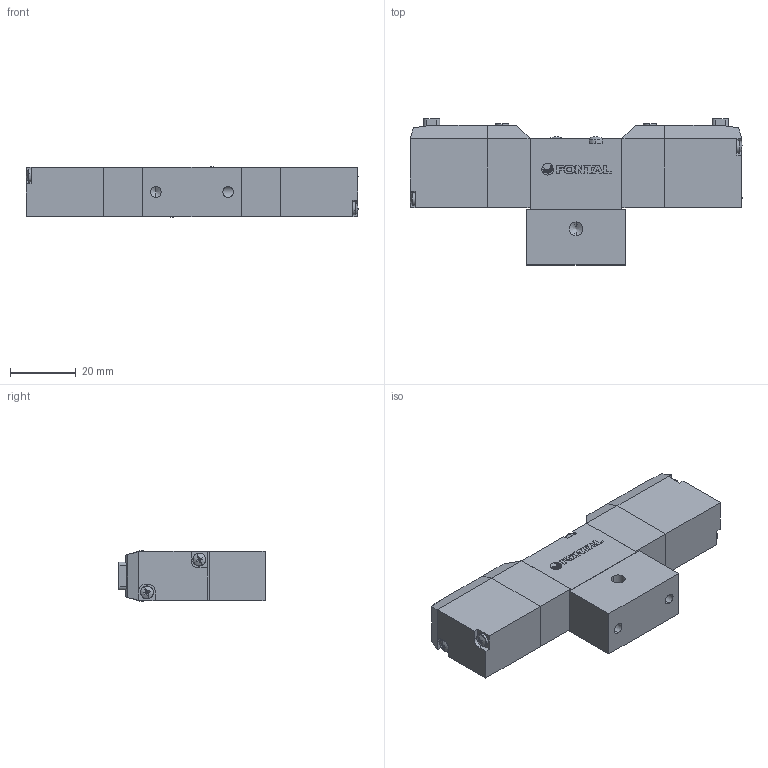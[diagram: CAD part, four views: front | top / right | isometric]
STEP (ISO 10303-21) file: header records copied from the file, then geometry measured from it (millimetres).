
FILE_DESCRIPTION (( 'STEP AP203' ), '1' );
FILE_NAME ('PCD245#-M5-#-U-#.STEP', '2016-02-04T03:43:28', ( 'Sam Lin' ), ( '' ), 'SwSTEP 2.0', 'SolidWorks 2013', '' );
FILE_SCHEMA (( 'CONFIG_CONTROL_DESIGN' ));
Length unit declared in the file: metre
Products named in the file (9): PC5-6; PC5-4; ISO 7045 - M2 x 10; ISO 7045 - M2.5 x 25; PC5-3-U; PCD245#-M5-#-U-#; PC5-1; PC5-5; PC-MARK
Assembly tree (15 placements, depth 2):
  PCD245#-M5-#-U-#
    PC5-1
    PC5-5  x2
    PC-MARK
    PC5-6  x2
    PC5-4  x2
    ISO 7045 - M2 x 10  x4
    ISO 7045 - M2.5 x 25  x2
    PC5-3-U
Bounding box: 101.14 x 44.5 x 15.4 mm (x, y, z)
Volume: 42029.4 mm3; surface area: 16753.4 mm2
Topology: 21 solids, 21 shells, 515 faces, 1261 edges, 783 vertices
Faces by surface type: plane 289, cylinder 107, cone 75, bspline 44
Entity records: 9974 total; most frequent: CARTESIAN_POINT 2125, ORIENTED_EDGE 1398, DIRECTION 1373, EDGE_CURVE 699, AXIS2_PLACEMENT_3D 478, VERTEX_POINT 450, VECTOR 417, LINE 417
